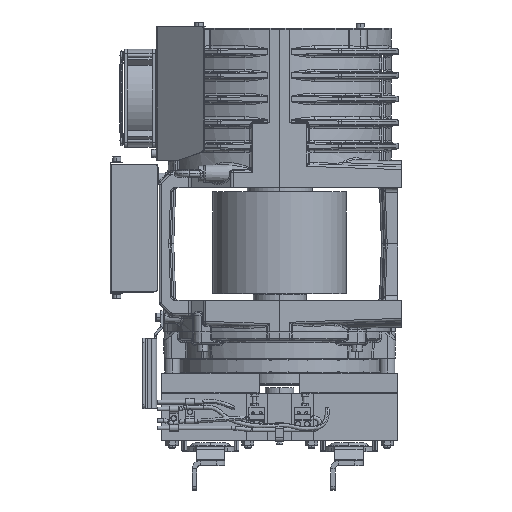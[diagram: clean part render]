
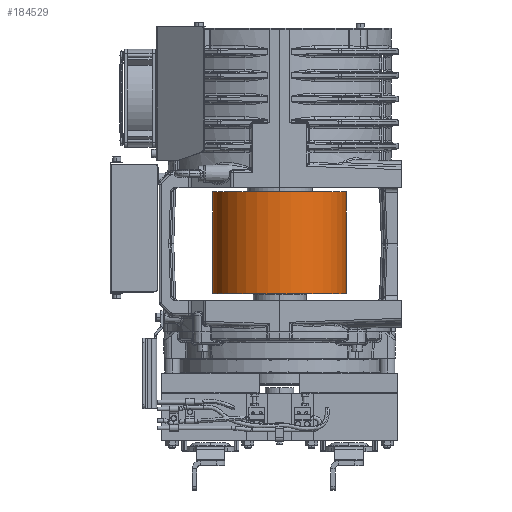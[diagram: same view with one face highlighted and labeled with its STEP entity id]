
A CAD part, left-side view. The second image highlights one B-rep face of the part: STEP entity #184529.
In plain terms, the highlighted cylindrical face has radius 82 mm (diameter 164 mm), a partial arc.
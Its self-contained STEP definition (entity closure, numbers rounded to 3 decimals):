
#184032=CARTESIAN_POINT('',(0.,0.,50.));
#184033=DIRECTION('',(0.,0.,-1.));
#184034=DIRECTION('',(0.,-1.,0.));
#184035=AXIS2_PLACEMENT_3D('',#184032,#184033,#184034);
#184069=DIRECTION('',(0.,0.,-1.));
#184070=VECTOR('',#184069,125.);
#184071=CARTESIAN_POINT('',(0.,-82.,50.));
#184072=LINE('',#184071,#184070);
#184073=DIRECTION('',(0.,0.,-1.));
#184074=VECTOR('',#184073,125.);
#184075=CARTESIAN_POINT('',(0.,82.,50.));
#184076=LINE('',#184075,#184074);
#184082=CARTESIAN_POINT('',(0.,0.,-75.));
#184083=DIRECTION('',(0.,0.,1.));
#184084=DIRECTION('',(0.,1.,0.));
#184085=AXIS2_PLACEMENT_3D('',#184082,#184083,#184084);
#184390=CARTESIAN_POINT('',(0.,-82.,50.));
#184391=CARTESIAN_POINT('',(0.,82.,50.));
#184392=VERTEX_POINT('',#184390);
#184393=VERTEX_POINT('',#184391);
#184406=CARTESIAN_POINT('',(0.,82.,-75.));
#184407=VERTEX_POINT('',#184406);
#184408=CARTESIAN_POINT('',(0.,-82.,-75.));
#184409=VERTEX_POINT('',#184408);
#184515=CARTESIAN_POINT('',(0.,0.,-81.25));
#184516=DIRECTION('',(0.,0.,1.));
#184517=DIRECTION('',(0.,1.,0.));
#184518=AXIS2_PLACEMENT_3D('',#184515,#184516,#184517);
#184519=CYLINDRICAL_SURFACE('',#184518,82.);
#184521=ORIENTED_EDGE('',*,*,#184520,.F.);
#184522=ORIENTED_EDGE('',*,*,#184494,.F.);
#184524=ORIENTED_EDGE('',*,*,#184523,.T.);
#184526=ORIENTED_EDGE('',*,*,#184525,.F.);
#184527=EDGE_LOOP('',(#184521,#184522,#184524,#184526));
#184528=FACE_OUTER_BOUND('',#184527,.F.);
#184529=ADVANCED_FACE('',(#184528),#184519,.T.);
#184036=CIRCLE('',#184035,82.);
#184086=CIRCLE('',#184085,82.);
#184494=EDGE_CURVE('',#184392,#184393,#184036,.T.);
#184520=EDGE_CURVE('',#184393,#184407,#184076,.T.);
#184523=EDGE_CURVE('',#184392,#184409,#184072,.T.);
#184525=EDGE_CURVE('',#184407,#184409,#184086,.T.);
